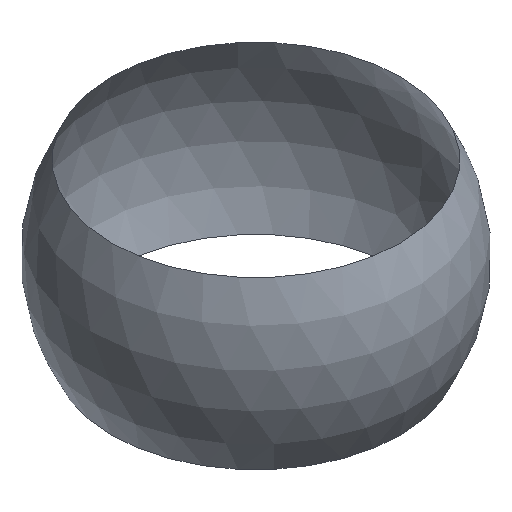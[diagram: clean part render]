
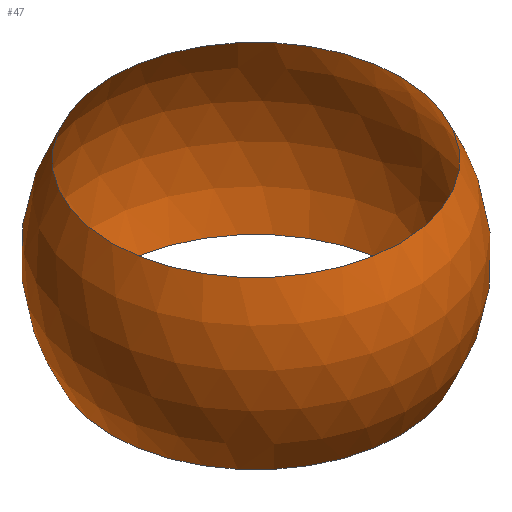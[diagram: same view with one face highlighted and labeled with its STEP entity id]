
A CAD part, isometric view. The second image highlights one B-rep face of the part: STEP entity #47.
In plain terms, the highlighted spherical face has radius 10 mm.
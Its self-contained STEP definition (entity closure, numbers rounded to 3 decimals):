
#1=CARTESIAN_POINT('',(0.,0.,0.));
#2=CARTESIAN_POINT('',(0.,0.,-5.));
#3=CARTESIAN_POINT('',(0.,0.,5.));
#4=CARTESIAN_POINT('',(8.66,0.,-5.));
#5=CARTESIAN_POINT('',(8.66,0.,5.));
#10=DIRECTION('',(0.,0.,1.));
#11=DIRECTION('',(1.,0.,0.));
#12=AXIS2_PLACEMENT_3D('',#1,#10,#11);
#13=AXIS2_PLACEMENT_3D('',#2,#10,#11);
#14=AXIS2_PLACEMENT_3D('',#3,#10,#11);
#20=VERTEX_POINT('',#4);
#21=VERTEX_POINT('',#5);
#22=CIRCLE('',#13,8.66);
#23=CIRCLE('',#14,8.66);
#30=EDGE_CURVE('',#20,#20,#22,.T.);
#31=EDGE_CURVE('',#21,#21,#23,.T.);
#40=ORIENTED_EDGE('',*,*,#30,.T.);
#41=ORIENTED_EDGE('',*,*,#31,.F.);
#42=EDGE_LOOP('',(#40));
#43=EDGE_LOOP('',(#41));
#44=FACE_OUTER_BOUND('',#42,.T.);
#45=FACE_BOUND('',#43,.T.);
#46=SPHERICAL_SURFACE('',#12,10.);
#47=ADVANCED_FACE('',(#45,#44),#46,.T.);
